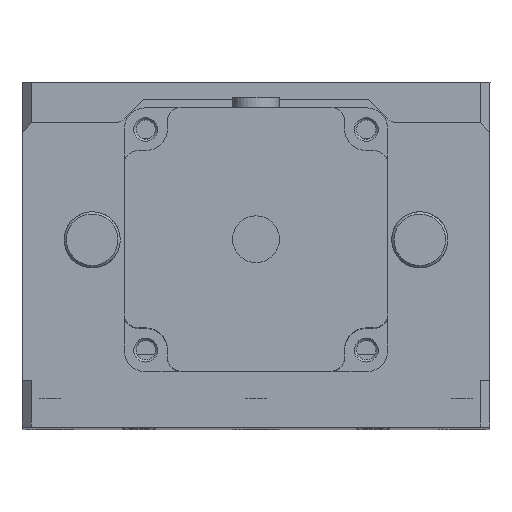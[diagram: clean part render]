
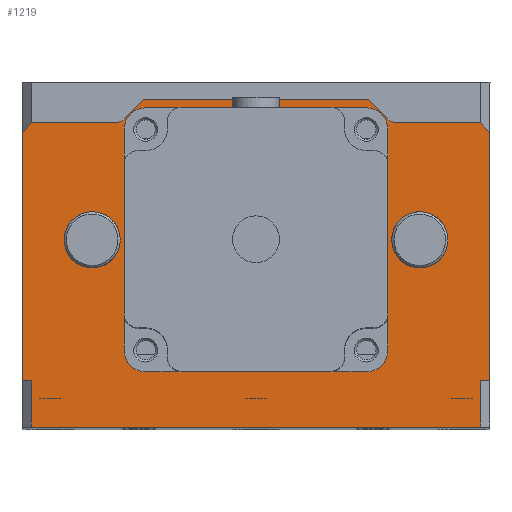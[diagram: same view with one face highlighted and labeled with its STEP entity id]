
A CAD part, top view. The second image highlights one B-rep face of the part: STEP entity #1219.
In plain terms, the highlighted planar face has unit normal (0, 0, 1).
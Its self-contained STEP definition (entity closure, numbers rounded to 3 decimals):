
#1219=ADVANCED_FACE('',(#17296,#17298,#17300,#17302),#17304,.T.);
#17296=FACE_BOUND('',#17297,.T.);
#17297=EDGE_LOOP('',(#30281,#30282,#30283,#30284,#30285,#30286,#30287,#30288,#30289,
#30290,#30291,#30292,#30293,#30294,#30295,#30296));
#17298=FACE_BOUND('',#17299,.T.);
#17299=EDGE_LOOP('',(#30297,#30298,#30299,#30300,#30301,#30302,#30303,#30304));
#17300=FACE_BOUND('',#17301,.T.);
#17301=EDGE_LOOP('',(#30305));
#17302=FACE_BOUND('',#17303,.T.);
#17303=EDGE_LOOP('',(#30306));
#17304=PLANE('',#17305);
#17305=AXIS2_PLACEMENT_3D('',#17306,#17307,#17308);
#17306=CARTESIAN_POINT('',(-50.,-40.,47.));
#17307=DIRECTION('',(0.,0.,1.));
#17308=DIRECTION('',(1.,0.,0.));
#30281=ORIENTED_EDGE('',*,*,#38286,.F.);
#30282=ORIENTED_EDGE('',*,*,#38263,.T.);
#30283=ORIENTED_EDGE('',*,*,#38288,.T.);
#30284=ORIENTED_EDGE('',*,*,#38289,.T.);
#30285=ORIENTED_EDGE('',*,*,#38209,.T.);
#30286=ORIENTED_EDGE('',*,*,#38203,.F.);
#30287=ORIENTED_EDGE('',*,*,#38200,.T.);
#30288=ORIENTED_EDGE('',*,*,#38197,.F.);
#30289=ORIENTED_EDGE('',*,*,#38196,.T.);
#30290=ORIENTED_EDGE('',*,*,#38194,.T.);
#30291=ORIENTED_EDGE('',*,*,#38191,.T.);
#30292=ORIENTED_EDGE('',*,*,#38189,.F.);
#30293=ORIENTED_EDGE('',*,*,#38186,.T.);
#30294=ORIENTED_EDGE('',*,*,#38184,.F.);
#30295=ORIENTED_EDGE('',*,*,#38176,.T.);
#30296=ORIENTED_EDGE('',*,*,#38287,.T.);
#30297=ORIENTED_EDGE('',*,*,#38290,.F.);
#30298=ORIENTED_EDGE('',*,*,#38291,.F.);
#30299=ORIENTED_EDGE('',*,*,#38292,.F.);
#30300=ORIENTED_EDGE('',*,*,#38293,.F.);
#30301=ORIENTED_EDGE('',*,*,#38294,.F.);
#30302=ORIENTED_EDGE('',*,*,#38295,.F.);
#30303=ORIENTED_EDGE('',*,*,#38296,.F.);
#30304=ORIENTED_EDGE('',*,*,#38297,.F.);
#30305=ORIENTED_EDGE('',*,*,#38298,.T.);
#30306=ORIENTED_EDGE('',*,*,#38299,.T.);
#38176=EDGE_CURVE('',#42422,#42420,#42423,.T.);
#38184=EDGE_CURVE('',#42422,#42436,#42437,.F.);
#38186=EDGE_CURVE('',#42439,#42436,#42440,.F.);
#38189=EDGE_CURVE('',#42439,#42444,#42445,.F.);
#38191=EDGE_CURVE('',#42447,#42444,#42448,.F.);
#38194=EDGE_CURVE('',#42450,#42447,#42452,.T.);
#38196=EDGE_CURVE('',#42453,#42450,#42455,.F.);
#38197=EDGE_CURVE('',#42453,#42456,#42457,.F.);
#38200=EDGE_CURVE('',#42459,#42456,#42461,.F.);
#38203=EDGE_CURVE('',#42459,#42464,#42466,.F.);
#38209=EDGE_CURVE('',#42477,#42464,#42478,.T.);
#38263=EDGE_CURVE('',#42581,#42579,#42582,.T.);
#38286=EDGE_CURVE('',#42581,#42624,#42626,.T.);
#38287=EDGE_CURVE('',#42420,#42624,#42627,.T.);
#38288=EDGE_CURVE('',#42579,#42628,#42629,.T.);
#38289=EDGE_CURVE('',#42628,#42477,#42630,.T.);
#38290=EDGE_CURVE('',#42631,#42632,#42633,.T.);
#38291=EDGE_CURVE('',#42634,#42631,#42635,.T.);
#38292=EDGE_CURVE('',#42636,#42634,#42637,.T.);
#38293=EDGE_CURVE('',#42638,#42636,#42639,.T.);
#38294=EDGE_CURVE('',#42640,#42638,#42641,.T.);
#38295=EDGE_CURVE('',#42642,#42640,#42643,.T.);
#38296=EDGE_CURVE('',#42644,#42642,#42645,.T.);
#38297=EDGE_CURVE('',#42632,#42644,#42646,.T.);
#38298=EDGE_CURVE('',#42647,#42647,#42648,.F.);
#38299=EDGE_CURVE('',#42649,#42649,#42650,.F.);
#42420=VERTEX_POINT('',#50783);
#42422=VERTEX_POINT('',#50787);
#42423=LINE('',#50788,#50789);
#42436=VERTEX_POINT('',#50819);
#42437=LINE('',#50820,#50821);
#42439=VERTEX_POINT('',#50826);
#42440=LINE('',#50827,#50828);
#42444=VERTEX_POINT('',#50838);
#42445=CIRCLE('',#50839,3.);
#42447=VERTEX_POINT('',#50846);
#42448=LINE('',#50847,#50848);
#42450=VERTEX_POINT('',#50853);
#42452=LINE('',#50857,#50858);
#42453=VERTEX_POINT('',#50860);
#42455=LINE('',#50864,#50865);
#42456=VERTEX_POINT('',#50867);
#42457=CIRCLE('',#50868,3.);
#42459=VERTEX_POINT('',#50875);
#42461=LINE('',#50879,#50880);
#42464=VERTEX_POINT('',#50887);
#42466=LINE('',#50891,#50892);
#42477=VERTEX_POINT('',#50914);
#42478=LINE('',#50915,#50916);
#42579=VERTEX_POINT('',#51394);
#42581=VERTEX_POINT('',#51398);
#42582=LINE('',#51399,#51400);
#42624=VERTEX_POINT('',#51505);
#42626=LINE('',#51509,#51510);
#42627=LINE('',#51512,#51513);
#42628=VERTEX_POINT('',#51515);
#42629=LINE('',#51516,#51517);
#42630=LINE('',#51519,#51520);
#42631=VERTEX_POINT('',#51522);
#42632=VERTEX_POINT('',#51523);
#42633=LINE('',#51524,#51525);
#42634=VERTEX_POINT('',#51527);
#42635=CIRCLE('',#51528,4.63);
#42636=VERTEX_POINT('',#51532);
#42637=LINE('',#51533,#51534);
#42638=VERTEX_POINT('',#51536);
#42639=CIRCLE('',#51537,4.63);
#42640=VERTEX_POINT('',#51541);
#42641=LINE('',#51542,#51543);
#42642=VERTEX_POINT('',#51545);
#42643=CIRCLE('',#51546,4.63);
#42644=VERTEX_POINT('',#51550);
#42645=LINE('',#51551,#51552);
#42646=CIRCLE('',#51554,4.63);
#42647=VERTEX_POINT('',#51558);
#42648=CIRCLE('',#51559,6.);
#42649=VERTEX_POINT('',#51563);
#42650=CIRCLE('',#51564,6.);
#50783=CARTESIAN_POINT('',(-50.,-30.,47.));
#50787=CARTESIAN_POINT('',(-50.,23.,47.));
#50788=CARTESIAN_POINT('',(-50.,23.,47.));
#50789=VECTOR('',#50790,1.);
#50790=DIRECTION('',(0.,-1.,0.));
#50819=CARTESIAN_POINT('',(-48.,25.,47.));
#50820=CARTESIAN_POINT('',(-48.,25.,47.));
#50821=VECTOR('',#50822,1.);
#50822=DIRECTION('',(-0.707,-0.707,0.));
#50826=CARTESIAN_POINT('',(-30.243,25.,47.));
#50827=CARTESIAN_POINT('',(-48.,25.,47.));
#50828=VECTOR('',#50829,1.);
#50829=DIRECTION('',(1.,0.,0.));
#50838=CARTESIAN_POINT('',(-28.121,25.879,47.));
#50839=AXIS2_PLACEMENT_3D('',#50840,#50841,#50842);
#50840=CARTESIAN_POINT('',(-30.243,28.,47.));
#50841=DIRECTION('',(0.,0.,-1.));
#50842=DIRECTION('',(0.707,-0.707,0.));
#50846=CARTESIAN_POINT('',(-24.,30.,47.));
#50847=CARTESIAN_POINT('',(-28.121,25.879,47.));
#50848=VECTOR('',#50849,1.);
#50849=DIRECTION('',(0.707,0.707,0.));
#50853=CARTESIAN_POINT('',(24.,30.,47.));
#50857=CARTESIAN_POINT('',(24.,30.,47.));
#50858=VECTOR('',#50859,1.);
#50859=DIRECTION('',(-1.,0.,0.));
#50860=CARTESIAN_POINT('',(28.121,25.879,47.));
#50864=CARTESIAN_POINT('',(24.,30.,47.));
#50865=VECTOR('',#50866,1.);
#50866=DIRECTION('',(0.707,-0.707,0.));
#50867=CARTESIAN_POINT('',(30.243,25.,47.));
#50868=AXIS2_PLACEMENT_3D('',#50869,#50870,#50871);
#50869=CARTESIAN_POINT('',(30.243,28.,47.));
#50870=DIRECTION('',(0.,0.,-1.));
#50871=DIRECTION('',(0.,-1.,0.));
#50875=CARTESIAN_POINT('',(48.,25.,47.));
#50879=CARTESIAN_POINT('',(30.243,25.,47.));
#50880=VECTOR('',#50881,1.);
#50881=DIRECTION('',(1.,0.,0.));
#50887=CARTESIAN_POINT('',(50.,23.,47.));
#50891=CARTESIAN_POINT('',(50.,23.,47.));
#50892=VECTOR('',#50893,1.);
#50893=DIRECTION('',(-0.707,0.707,0.));
#50914=CARTESIAN_POINT('',(50.,-30.,47.));
#50915=CARTESIAN_POINT('',(50.,-30.,47.));
#50916=VECTOR('',#50917,1.);
#50917=DIRECTION('',(0.,1.,0.));
#51394=CARTESIAN_POINT('',(48.,-40.,47.));
#51398=CARTESIAN_POINT('',(-48.,-40.,47.));
#51399=CARTESIAN_POINT('',(-48.,-40.,47.));
#51400=VECTOR('',#51401,1.);
#51401=DIRECTION('',(1.,0.,0.));
#51505=CARTESIAN_POINT('',(-48.,-30.,47.));
#51509=CARTESIAN_POINT('',(-48.,-40.,47.));
#51510=VECTOR('',#51511,1.);
#51511=DIRECTION('',(0.,1.,0.));
#51512=CARTESIAN_POINT('',(-50.,-30.,47.));
#51513=VECTOR('',#51514,1.);
#51514=DIRECTION('',(1.,0.,0.));
#51515=CARTESIAN_POINT('',(48.,-30.,47.));
#51516=CARTESIAN_POINT('',(48.,-40.,47.));
#51517=VECTOR('',#51518,1.);
#51518=DIRECTION('',(0.,1.,0.));
#51519=CARTESIAN_POINT('',(48.,-30.,47.));
#51520=VECTOR('',#51521,1.);
#51521=DIRECTION('',(1.,0.,0.));
#51522=CARTESIAN_POINT('',(23.57,28.2,47.));
#51523=CARTESIAN_POINT('',(-23.57,28.2,47.));
#51524=CARTESIAN_POINT('',(23.57,28.2,47.));
#51525=VECTOR('',#51526,1.);
#51526=DIRECTION('',(-1.,0.,0.));
#51527=CARTESIAN_POINT('',(28.2,23.57,47.));
#51528=AXIS2_PLACEMENT_3D('',#51529,#51530,#51531);
#51529=CARTESIAN_POINT('',(23.57,23.57,47.));
#51530=DIRECTION('',(-0.,0.,1.));
#51531=DIRECTION('',(1.,0.,0.));
#51532=CARTESIAN_POINT('',(28.2,-23.57,47.));
#51533=CARTESIAN_POINT('',(28.2,-23.57,47.));
#51534=VECTOR('',#51535,1.);
#51535=DIRECTION('',(0.,1.,0.));
#51536=CARTESIAN_POINT('',(23.57,-28.2,47.));
#51537=AXIS2_PLACEMENT_3D('',#51538,#51539,#51540);
#51538=CARTESIAN_POINT('',(23.57,-23.57,47.));
#51539=DIRECTION('',(0.,0.,1.));
#51540=DIRECTION('',(0.,-1.,0.));
#51541=CARTESIAN_POINT('',(-23.57,-28.2,47.));
#51542=CARTESIAN_POINT('',(-23.57,-28.2,47.));
#51543=VECTOR('',#51544,1.);
#51544=DIRECTION('',(1.,0.,0.));
#51545=CARTESIAN_POINT('',(-28.2,-23.57,47.));
#51546=AXIS2_PLACEMENT_3D('',#51547,#51548,#51549);
#51547=CARTESIAN_POINT('',(-23.57,-23.57,47.));
#51548=DIRECTION('',(0.,0.,1.));
#51549=DIRECTION('',(-1.,0.,0.));
#51550=CARTESIAN_POINT('',(-28.2,23.57,47.));
#51551=CARTESIAN_POINT('',(-28.2,23.57,47.));
#51552=VECTOR('',#51553,1.);
#51553=DIRECTION('',(0.,-1.,0.));
#51554=AXIS2_PLACEMENT_3D('',#51555,#51556,#51557);
#51555=CARTESIAN_POINT('',(-23.57,23.57,47.));
#51556=DIRECTION('',(0.,0.,1.));
#51557=DIRECTION('',(0.,1.,0.));
#51558=CARTESIAN_POINT('',(-29.,0.,47.));
#51559=AXIS2_PLACEMENT_3D('',#51560,#51561,#51562);
#51560=CARTESIAN_POINT('',(-35.,0.,47.));
#51561=DIRECTION('',(0.,0.,1.));
#51562=DIRECTION('',(1.,0.,0.));
#51563=CARTESIAN_POINT('',(41.,0.,47.));
#51564=AXIS2_PLACEMENT_3D('',#51565,#51566,#51567);
#51565=CARTESIAN_POINT('',(35.,0.,47.));
#51566=DIRECTION('',(0.,0.,1.));
#51567=DIRECTION('',(1.,0.,0.));
